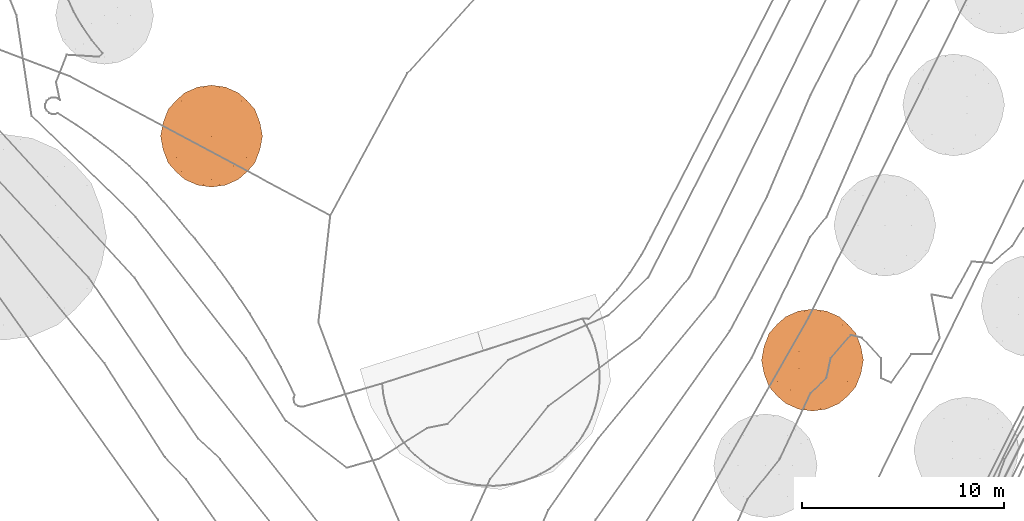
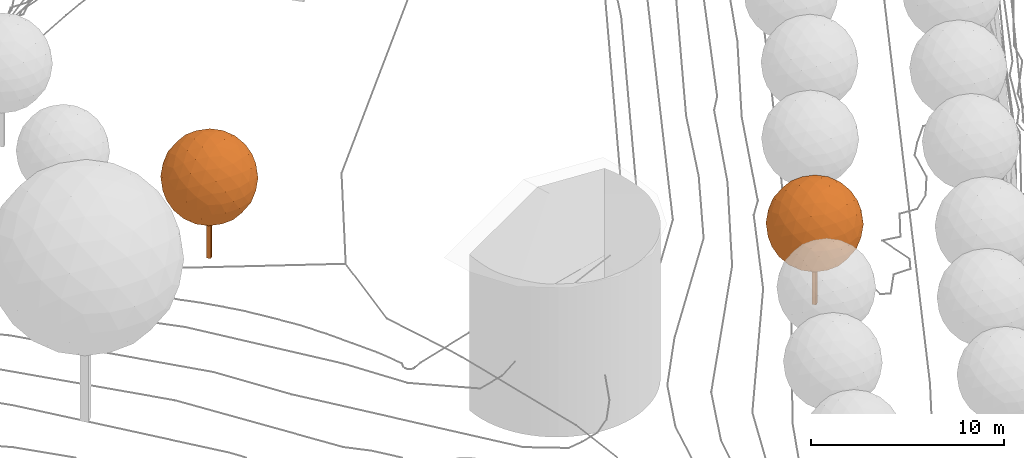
# Not in any storey, part 366 of 494: 2 proxies.
"""IFC2X3 model written with IfcOpenShell, lengths in metres."""

import ifcopenshell
import ifcopenshell.guid

model = None  # the IFC model being written
_history = None  # IfcOwnerHistory: only IFC2X3 demands one
_inside = {}  # id of a spatial element -> (the spatial element, [elements in it])
_under = {}  # id of a project, library or spatial element -> (it, [spatial elements below it])
_declared = {}  # id of a project -> (the project, [libraries it declares])
_typed = {}  # id of a type object -> (the type object, [elements of that type])
_made_of = {}  # id of a material, layer set ... -> (it, [elements and type objects made of it])


def new_model(schema):
    """Start an empty IFC model of exactly this schema.

    Asked for "IFC4X3", IfcOpenShell would pick the latest addendum, in which some entities
    have other attributes; the version numbers below select the first issue.
    IFC2X3 requires an IfcOwnerHistory on every rooted entity: one is made here for all.
    """
    global model, _history
    if schema == "IFC4X3":
        model = ifcopenshell.file(schema_version=(4, 3, 0, 0))
    else:
        model = ifcopenshell.file(schema=schema)
    _inside.clear()
    _under.clear()
    _declared.clear()
    _typed.clear()
    _made_of.clear()
    _history = None
    if model.schema == "IFC2X3":
        org = make("IfcOrganization", Name="unknown")
        user = make(
            "IfcPersonAndOrganization",
            ThePerson=make("IfcPerson", FamilyName="unknown"),
            TheOrganization=org,
        )
        app = make(
            "IfcApplication",
            ApplicationDeveloper=org,
            Version="unknown",
            ApplicationFullName="unknown",
            ApplicationIdentifier="unknown",
        )
        _history = make(
            "IfcOwnerHistory",
            OwningUser=user,
            OwningApplication=app,
            ChangeAction="ADDED",
            CreationDate=0,
        )
    return model


def make(cls, **values):
    """One entity of the class cls with the attributes given. An attribute that is None is left unset."""
    return model.create_entity(
        cls, **{name: value for name, value in values.items() if value is not None}
    )


def rooted(cls, **values):
    """An entity with a GlobalId (a new one), such as an element, a storey or a relation."""
    return make(cls, GlobalId=ifcopenshell.guid.new(), OwnerHistory=_history, **values)


def si_unit(unit_type, name, prefix=None):
    """IfcSIUnit, for example si_unit("LENGTHUNIT", "METRE", prefix="MILLI")."""
    return make("IfcSIUnit", UnitType=unit_type, Prefix=prefix, Name=name)


def assignment(units):
    """IfcUnitAssignment: the units of a project."""
    return None if units is None else make("IfcUnitAssignment", Units=units)


def point(xyz):
    """IfcCartesianPoint."""
    return None if xyz is None else make("IfcCartesianPoint", Coordinates=xyz)


def direction(xyz):
    """IfcDirection."""
    return None if xyz is None else make("IfcDirection", DirectionRatios=xyz)


def frame(location, z_axis=None, x_axis=None):
    """IfcAxis2Placement3D, a coordinate frame: its origin and axes. An axis left out is left unset."""
    return make(
        "IfcAxis2Placement3D",
        Location=point(location),
        Axis=direction(z_axis),
        RefDirection=direction(x_axis),
    )


def origin_with_axes():
    """The frame at (0, 0, 0) with the z axis (0, 0, 1) and the x axis (1, 0, 0) written out."""
    return frame((0.0, 0.0, 0.0), z_axis=(0.0, 0.0, 1.0), x_axis=(1.0, 0.0, 0.0))


def place(relative_to, where):
    """IfcLocalPlacement: puts the frame where relative to a parent placement (None: the world)."""
    return make(
        "IfcLocalPlacement", PlacementRelTo=relative_to, RelativePlacement=where
    )


def context(
    kind, dimensions, precision=None, world=None, true_north=None, identifier=None
):
    """IfcGeometricRepresentationContext, for example the 3D "Model" context."""
    return make(
        "IfcGeometricRepresentationContext",
        ContextIdentifier=identifier,
        ContextType=kind,
        CoordinateSpaceDimension=dimensions,
        Precision=precision,
        WorldCoordinateSystem=world,
        TrueNorth=true_north,
    )


def subcontext(parent, identifier, kind, view, scale=None):
    """IfcGeometricRepresentationSubContext, for example "Body" below "Model"."""
    return make(
        "IfcGeometricRepresentationSubContext",
        ContextIdentifier=identifier,
        ContextType=kind,
        ParentContext=parent,
        TargetScale=scale,
        TargetView=view,
    )


def project(units=None, contexts=None):
    """IfcProject with its units and contexts."""
    return rooted(
        "IfcProject",
        Name="project",
        RepresentationContexts=contexts,
        UnitsInContext=assignment(units),
    )


def faces_of(points, faces, orient=None, outer=None):
    """IfcFace entities. A face is a list of loops; a loop is a list of indices into points, from 0.

    orient and outer hold one flag for each loop. By default every Orientation is true, the
    first loop of a face is its IfcFaceOuterBound and the others are IfcFaceBound.
    """
    made = []
    for i, loops in enumerate(faces):
        bounds = []
        for j, loop in enumerate(loops):
            is_outer = j == 0 if outer is None else outer[i][j]
            bounds.append(
                make(
                    "IfcFaceOuterBound" if is_outer else "IfcFaceBound",
                    Bound=make("IfcPolyLoop", Polygon=[points[k] for k in loop]),
                    Orientation=True if orient is None else orient[i][j],
                )
            )
        made.append(make("IfcFace", Bounds=bounds))
    return made


def faceted_brep(points, faces, orient=None, outer=None, voids=None):
    """IfcFacetedBrep: a solid bounded by flat faces; with voids (closed shells), ...WithVoids."""
    shared = [point(p) for p in points]
    hull = make("IfcClosedShell", CfsFaces=faces_of(shared, faces, orient, outer))
    if voids is None:
        return make("IfcFacetedBrep", Outer=hull)
    return make(
        "IfcFacetedBrepWithVoids",
        Outer=hull,
        Voids=[
            make(cls, CfsFaces=faces_of(shared, fs, o, b)) for cls, fs, o, b in voids
        ],
    )


def shape(context_of_items, identifier, shape_type, items):
    """IfcShapeRepresentation: the items that make up one representation, for example the "Body"."""
    return make(
        "IfcShapeRepresentation",
        ContextOfItems=context_of_items,
        RepresentationIdentifier=identifier,
        RepresentationType=shape_type,
        Items=items,
    )


def made_of(thing, what):
    """Note that an element or type object is made of a material, layer set ...; save() writes the relation."""
    if what is not None:
        _made_of.setdefault(what.id(), (what, []))[1].append(thing)
    return thing


def element(
    cls,
    number,
    at=None,
    inside=None,
    cuts=None,
    type_object=None,
    material=None,
    context=None,
    identifier="Body",
    shape_type=None,
    held_by="IfcProductDefinitionShape",
    body=None,
    shapes=None,
    **own,
):
    """One element of the class cls, such as IfcWall. Its Tag is "e" and its number.

    at: its placement. inside: the storey or other place that contains it. cuts: it is an
    opening in that element (IfcRelVoidsElement). A single representation is given by context,
    identifier, shape_type and body (its items); several are given by shapes. held_by: the class
    of the entity that holds the representations. save() writes the other relations.
    """
    e = rooted(cls, Tag="e%d" % number, ObjectPlacement=at, **own)
    if body is not None:
        shapes = [shape(context, identifier, shape_type, body)]
    if shapes is not None:
        e.Representation = make(held_by, Representations=shapes)
    if inside is not None:
        _inside.setdefault(inside.id(), (inside, []))[1].append(e)
    if cuts is not None:
        rooted(
            "IfcRelVoidsElement", RelatingBuildingElement=cuts, RelatedOpeningElement=e
        )
    if type_object is not None:
        _typed.setdefault(type_object.id(), (type_object, []))[1].append(e)
    return made_of(e, material)


def aggregate(whole, parts):
    """IfcRelAggregates: a whole, such as a stair, and the parts it consists of."""
    return rooted("IfcRelAggregates", RelatingObject=whole, RelatedObjects=parts)


def save(model, path):
    """Write the relations noted so far, then the file.

    IfcRelAggregates (storeys below a building ...), IfcRelContainedInSpatialStructure (elements
    in a storey), IfcRelDefinesByType, IfcRelAssociatesMaterial and IfcRelDeclares: one each for
    every whole, place, type object, material and project.
    """
    for whole, parts in _under.values():
        aggregate(whole, parts)
    for where, things in _inside.values():
        rooted(
            "IfcRelContainedInSpatialStructure",
            RelatedElements=things,
            RelatingStructure=where,
        )
    for kind, things in _typed.values():
        rooted("IfcRelDefinesByType", RelatedObjects=things, RelatingType=kind)
    for what, things in _made_of.values():
        rooted("IfcRelAssociatesMaterial", RelatedObjects=things, RelatingMaterial=what)
    for by, libraries in _declared.values():
        rooted("IfcRelDeclares", RelatingContext=by, RelatedDefinitions=libraries)
    model.write(path)


model = new_model("IFC2X3")

# Units and contexts
model_context = context("Model", 3, precision=1e-05, world=origin_with_axes())
body_context = subcontext(model_context, "Body", "Model", "MODEL_VIEW")
ifc_project = project(units=[si_unit("AREAUNIT", "SQUARE_METRE"), si_unit("LENGTHUNIT", "METRE")], contexts=[model_context])

# Proxies
proxy_1_placement = place(None, frame((243.9797320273, 258.1807352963, 545.6887201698), z_axis=(0.0, 0.0, 1.0), x_axis=(1.0, 0.0, 0.0)))
element("IfcBuildingElementProxy", 1, at=proxy_1_placement, Name="Tree TR1 CD50", ObjectType="NOTDEFINED", context=body_context, shape_type="Brep", body=[
    faceted_brep([(0.0, 0.1608373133, 0.0), (0.1608373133, 0.0, 0.0), (0.0, -0.1608373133, 0.0), (-0.1608373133, 0.0, 0.0), (0.0, -0.1608373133, 5.0528532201), (0.1608373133, 0.0, 5.0528532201), (0.0, 0.1608373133, 5.0528532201), (-0.1608373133, 0.0, 5.0528532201)], [[[0, 1, 2]], [[2, 3, 0]], [[4, 5, 6]], [[6, 7, 4]], [[4, 7, 2]], [[2, 7, 3]], [[7, 6, 3]], [[3, 6, 0]], [[5, 4, 1]], [[1, 4, 2]], [[6, 5, 0]], [[0, 5, 1]]]),
    faceted_brep([(-1.3282210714, 2.1491068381, 5.0528532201), (-1.7527854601, 1.7736688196, 5.4586530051), (-1.0961876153, 2.1794686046, 5.7094510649), (-2.0439220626, 1.263213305, 5.8335619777), (-1.4849963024, 1.7386639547, 6.1274066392), (-0.7807087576, 2.0439220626, 6.3160665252), (-2.1794686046, 0.6565978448, 6.1490408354), (-1.7386639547, 1.074553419, 6.5378495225), (-2.1491068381, 0.0, 6.3810742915), (-1.7736688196, 0.405799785, 6.8056386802), (-1.263213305, 0.7807087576, 7.0967752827), (-1.074553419, 1.4849963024, 6.7915171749), (-0.405799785, 1.7527854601, 6.8265220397), (-0.6565978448, 1.0961876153, 7.2323218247), (0.0, 1.3282210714, 7.2019600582), (-0.6903878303, 2.4302666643, 5.0528532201), (-0.4104428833, 2.4027744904, 5.7169637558), (0.0, 2.5264266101, 5.0528532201), (0.0, 2.1491068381, 6.3810742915), (0.405799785, 1.7527854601, 6.8265220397), (0.7807087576, 2.0439220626, 6.3160665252), (0.4104428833, 2.4027744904, 5.7169637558), (0.6903878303, 2.4302666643, 5.0528532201), (1.0961876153, 2.1794686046, 5.7094510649), (1.3282210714, 2.1491068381, 5.0528532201), (-1.0961876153, 2.1794686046, 4.3962553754), (-0.4104428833, 2.4027744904, 4.3887426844), (-0.7807087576, 2.0439220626, 3.7896399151), (0.4104428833, 2.4027744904, 4.3887426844), (1.0961876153, 2.1794686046, 4.3962553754), (0.7807087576, 2.0439220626, 3.7896399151), (0.0, 2.1491068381, 3.7246321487), (-0.405799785, 1.7527854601, 3.2791844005), (0.405799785, 1.7527854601, 3.2791844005), (0.0, 1.3282210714, 2.903746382), (-1.7527854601, 1.7736688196, 4.6470534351), (-1.4849963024, 1.7386639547, 3.9782998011), (-2.0439220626, 1.263213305, 4.2721444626), (-1.074553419, 1.4849963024, 3.3141892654), (-0.6565978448, 1.0961876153, 2.8733846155), (-1.263213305, 0.7807087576, 3.0089311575), (-1.7386639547, 1.074553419, 3.5678569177), (-2.1794686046, 0.6565978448, 3.9566656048), (-1.7736688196, 0.405799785, 3.3000677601), (-2.1491068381, 0.0, 3.7246321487), (-2.1491068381, 1.3282210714, 5.0528532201), (-2.4027744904, 0.6641105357, 4.6424103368), (-2.4302666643, 0.0, 4.3624653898), (-2.5264266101, 0.0, 5.0528532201), (-2.4027744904, 0.6641105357, 5.4632961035), (-2.4302666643, 0.0, 5.7432410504), (1.7527854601, 1.7736688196, 5.4586530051), (1.4849963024, 1.7386639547, 6.1274066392), (2.0439220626, 1.263213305, 5.8335619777), (1.074553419, 1.4849963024, 6.7915171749), (0.6565978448, 1.0961876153, 7.2323218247), (1.263213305, 0.7807087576, 7.0967752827), (1.7386639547, 1.074553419, 6.5378495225), (2.1794686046, 0.6565978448, 6.1490408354), (1.7736688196, 0.405799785, 6.8056386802), (2.1491068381, 0.0, 6.3810742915), (0.0, 0.6903878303, 7.4831198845), (-0.6641105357, 0.4104428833, 7.4556277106), (0.0, 0.0, 7.5792798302), (-1.3282210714, 0.0, 7.2019600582), (-1.7736688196, -0.405799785, 6.8056386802), (-1.263213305, -0.7807087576, 7.0967752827), (-0.6641105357, -0.4104428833, 7.4556277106), (0.0, -0.6903878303, 7.4831198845), (-0.6565978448, -1.0961876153, 7.2323218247), (0.0, -1.3282210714, 7.2019600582), (-2.1794686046, -0.6565978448, 6.1490408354), (-2.4027744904, -0.6641105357, 5.4632961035), (-2.0439220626, -1.263213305, 5.8335619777), (-2.4027744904, -0.6641105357, 4.6424103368), (-2.1794686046, -0.6565978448, 3.9566656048), (-2.0439220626, -1.263213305, 4.2721444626), (-2.1491068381, -1.3282210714, 5.0528532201), (-1.7527854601, -1.7736688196, 5.4586530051), (-1.7527854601, -1.7736688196, 4.6470534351), (-1.3282210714, -2.1491068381, 5.0528532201), (-1.7736688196, -0.405799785, 3.3000677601), (-1.3282210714, 0.0, 2.903746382), (-1.263213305, -0.7807087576, 3.0089311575), (-0.6641105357, 0.4104428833, 2.6500787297), (0.0, 0.6903878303, 2.6225865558), (0.0, 0.0, 2.5264266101), (-0.6641105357, -0.4104428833, 2.6500787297), (-0.6565978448, -1.0961876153, 2.8733846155), (0.0, -0.6903878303, 2.6225865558), (0.0, -1.3282210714, 2.903746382), (0.6565978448, 1.0961876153, 2.8733846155), (1.074553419, 1.4849963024, 3.3141892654), (1.263213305, 0.7807087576, 3.0089311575), (1.4849963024, 1.7386639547, 3.9782998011), (1.7527854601, 1.7736688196, 4.6470534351), (2.0439220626, 1.263213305, 4.2721444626), (1.7386639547, 1.074553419, 3.5678569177), (1.7736688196, 0.405799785, 3.3000677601), (2.1794686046, 0.6565978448, 3.9566656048), (2.1491068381, 0.0, 3.7246321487), (1.3282210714, -2.1491068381, 5.0528532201), (1.7527854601, -1.7736688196, 5.4586530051), (1.0961876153, -2.1794686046, 5.7094510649), (2.0439220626, -1.263213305, 5.8335619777), (1.4849963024, -1.7386639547, 6.1274066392), (0.7807087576, -2.0439220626, 6.3160665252), (2.1794686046, -0.6565978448, 6.1490408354), (1.7386639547, -1.074553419, 6.5378495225), (1.7736688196, -0.405799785, 6.8056386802), (1.263213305, -0.7807087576, 7.0967752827), (1.074553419, -1.4849963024, 6.7915171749), (0.405799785, -1.7527854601, 6.8265220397), (0.6565978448, -1.0961876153, 7.2323218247), (0.6903878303, -2.4302666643, 5.0528532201), (0.4104428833, -2.4027744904, 5.7169637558), (0.0, -2.5264266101, 5.0528532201), (0.0, -2.1491068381, 6.3810742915), (-0.405799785, -1.7527854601, 6.8265220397), (-0.7807087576, -2.0439220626, 6.3160665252), (-0.4104428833, -2.4027744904, 5.7169637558), (-0.6903878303, -2.4302666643, 5.0528532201), (-1.0961876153, -2.1794686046, 5.7094510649), (1.0961876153, -2.1794686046, 4.3962553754), (0.4104428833, -2.4027744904, 4.3887426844), (0.7807087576, -2.0439220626, 3.7896399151), (-0.4104428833, -2.4027744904, 4.3887426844), (-1.0961876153, -2.1794686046, 4.3962553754), (-0.7807087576, -2.0439220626, 3.7896399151), (0.0, -2.1491068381, 3.7246321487), (0.405799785, -1.7527854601, 3.2791844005), (-0.405799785, -1.7527854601, 3.2791844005), (1.7527854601, -1.7736688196, 4.6470534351), (1.4849963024, -1.7386639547, 3.9782998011), (2.0439220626, -1.263213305, 4.2721444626), (1.074553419, -1.4849963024, 3.3141892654), (0.6565978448, -1.0961876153, 2.8733846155), (1.263213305, -0.7807087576, 3.0089311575), (1.7386639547, -1.074553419, 3.5678569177), (2.1794686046, -0.6565978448, 3.9566656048), (1.7736688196, -0.405799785, 3.3000677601), (2.1491068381, -1.3282210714, 5.0528532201), (2.4027744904, -0.6641105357, 4.6424103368), (2.4302666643, 0.0, 4.3624653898), (2.5264266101, 0.0, 5.0528532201), (2.4027744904, -0.6641105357, 5.4632961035), (2.4302666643, 0.0, 5.7432410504), (0.6641105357, -0.4104428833, 7.4556277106), (1.3282210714, 0.0, 7.2019600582), (0.6641105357, 0.4104428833, 7.4556277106), (-1.4849963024, -1.7386639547, 6.1274066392), (-1.074553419, -1.4849963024, 6.7915171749), (-1.7386639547, -1.074553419, 6.5378495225), (-1.074553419, -1.4849963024, 3.3141892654), (-1.4849963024, -1.7386639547, 3.9782998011), (-1.7386639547, -1.074553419, 3.5678569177), (1.3282210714, 0.0, 2.903746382), (0.6641105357, -0.4104428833, 2.6500787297), (0.6641105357, 0.4104428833, 2.6500787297), (2.4027744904, 0.6641105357, 5.4632961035), (2.4027744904, 0.6641105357, 4.6424103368), (2.1491068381, 1.3282210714, 5.0528532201)], [[[0, 1, 2]], [[1, 3, 4]], [[2, 4, 5]], [[1, 4, 2]], [[3, 6, 7]], [[6, 8, 9]], [[7, 9, 10]], [[6, 9, 7]], [[5, 11, 12]], [[11, 10, 13]], [[12, 13, 14]], [[11, 13, 12]], [[3, 7, 4]], [[7, 10, 11]], [[4, 11, 5]], [[7, 11, 4]], [[0, 2, 15]], [[2, 5, 16]], [[15, 16, 17]], [[2, 16, 15]], [[5, 12, 18]], [[12, 14, 19]], [[18, 19, 20]], [[12, 19, 18]], [[17, 21, 22]], [[21, 20, 23]], [[22, 23, 24]], [[21, 23, 22]], [[5, 18, 16]], [[18, 20, 21]], [[16, 21, 17]], [[18, 21, 16]], [[0, 15, 25]], [[15, 17, 26]], [[25, 26, 27]], [[15, 26, 25]], [[17, 22, 28]], [[22, 24, 29]], [[28, 29, 30]], [[22, 29, 28]], [[27, 31, 32]], [[31, 30, 33]], [[32, 33, 34]], [[31, 33, 32]], [[17, 28, 26]], [[28, 30, 31]], [[26, 31, 27]], [[28, 31, 26]], [[0, 25, 35]], [[25, 27, 36]], [[35, 36, 37]], [[25, 36, 35]], [[27, 32, 38]], [[32, 34, 39]], [[38, 39, 40]], [[32, 39, 38]], [[37, 41, 42]], [[41, 40, 43]], [[42, 43, 44]], [[41, 43, 42]], [[27, 38, 36]], [[38, 40, 41]], [[36, 41, 37]], [[38, 41, 36]], [[0, 35, 1]], [[35, 37, 45]], [[1, 45, 3]], [[35, 45, 1]], [[37, 42, 46]], [[42, 44, 47]], [[46, 47, 48]], [[42, 47, 46]], [[3, 49, 6]], [[49, 48, 50]], [[6, 50, 8]], [[49, 50, 6]], [[37, 46, 45]], [[46, 48, 49]], [[45, 49, 3]], [[46, 49, 45]], [[24, 23, 51]], [[23, 20, 52]], [[51, 52, 53]], [[23, 52, 51]], [[20, 19, 54]], [[19, 14, 55]], [[54, 55, 56]], [[19, 55, 54]], [[53, 57, 58]], [[57, 56, 59]], [[58, 59, 60]], [[57, 59, 58]], [[20, 54, 52]], [[54, 56, 57]], [[52, 57, 53]], [[54, 57, 52]], [[14, 13, 61]], [[13, 10, 62]], [[61, 62, 63]], [[13, 62, 61]], [[10, 9, 64]], [[9, 8, 65]], [[64, 65, 66]], [[9, 65, 64]], [[63, 67, 68]], [[67, 66, 69]], [[68, 69, 70]], [[67, 69, 68]], [[10, 64, 62]], [[64, 66, 67]], [[62, 67, 63]], [[64, 67, 62]], [[8, 50, 71]], [[50, 48, 72]], [[71, 72, 73]], [[50, 72, 71]], [[48, 47, 74]], [[47, 44, 75]], [[74, 75, 76]], [[47, 75, 74]], [[73, 77, 78]], [[77, 76, 79]], [[78, 79, 80]], [[77, 79, 78]], [[48, 74, 72]], [[74, 76, 77]], [[72, 77, 73]], [[74, 77, 72]], [[44, 43, 81]], [[43, 40, 82]], [[81, 82, 83]], [[43, 82, 81]], [[40, 39, 84]], [[39, 34, 85]], [[84, 85, 86]], [[39, 85, 84]], [[83, 87, 88]], [[87, 86, 89]], [[88, 89, 90]], [[87, 89, 88]], [[40, 84, 82]], [[84, 86, 87]], [[82, 87, 83]], [[84, 87, 82]], [[34, 33, 91]], [[33, 30, 92]], [[91, 92, 93]], [[33, 92, 91]], [[30, 29, 94]], [[29, 24, 95]], [[94, 95, 96]], [[29, 95, 94]], [[93, 97, 98]], [[97, 96, 99]], [[98, 99, 100]], [[97, 99, 98]], [[30, 94, 92]], [[94, 96, 97]], [[92, 97, 93]], [[94, 97, 92]], [[101, 102, 103]], [[102, 104, 105]], [[103, 105, 106]], [[102, 105, 103]], [[104, 107, 108]], [[107, 60, 109]], [[108, 109, 110]], [[107, 109, 108]], [[106, 111, 112]], [[111, 110, 113]], [[112, 113, 70]], [[111, 113, 112]], [[104, 108, 105]], [[108, 110, 111]], [[105, 111, 106]], [[108, 111, 105]], [[101, 103, 114]], [[103, 106, 115]], [[114, 115, 116]], [[103, 115, 114]], [[106, 112, 117]], [[112, 70, 118]], [[117, 118, 119]], [[112, 118, 117]], [[116, 120, 121]], [[120, 119, 122]], [[121, 122, 80]], [[120, 122, 121]], [[106, 117, 115]], [[117, 119, 120]], [[115, 120, 116]], [[117, 120, 115]], [[101, 114, 123]], [[114, 116, 124]], [[123, 124, 125]], [[114, 124, 123]], [[116, 121, 126]], [[121, 80, 127]], [[126, 127, 128]], [[121, 127, 126]], [[125, 129, 130]], [[129, 128, 131]], [[130, 131, 90]], [[129, 131, 130]], [[116, 126, 124]], [[126, 128, 129]], [[124, 129, 125]], [[126, 129, 124]], [[101, 123, 132]], [[123, 125, 133]], [[132, 133, 134]], [[123, 133, 132]], [[125, 130, 135]], [[130, 90, 136]], [[135, 136, 137]], [[130, 136, 135]], [[134, 138, 139]], [[138, 137, 140]], [[139, 140, 100]], [[138, 140, 139]], [[125, 135, 133]], [[135, 137, 138]], [[133, 138, 134]], [[135, 138, 133]], [[101, 132, 102]], [[132, 134, 141]], [[102, 141, 104]], [[132, 141, 102]], [[134, 139, 142]], [[139, 100, 143]], [[142, 143, 144]], [[139, 143, 142]], [[104, 145, 107]], [[145, 144, 146]], [[107, 146, 60]], [[145, 146, 107]], [[134, 142, 141]], [[142, 144, 145]], [[141, 145, 104]], [[142, 145, 141]], [[70, 113, 68]], [[113, 110, 147]], [[68, 147, 63]], [[113, 147, 68]], [[110, 109, 148]], [[109, 60, 59]], [[148, 59, 56]], [[109, 59, 148]], [[63, 149, 61]], [[149, 56, 55]], [[61, 55, 14]], [[149, 55, 61]], [[110, 148, 147]], [[148, 56, 149]], [[147, 149, 63]], [[148, 149, 147]], [[80, 122, 78]], [[122, 119, 150]], [[78, 150, 73]], [[122, 150, 78]], [[119, 118, 151]], [[118, 70, 69]], [[151, 69, 66]], [[118, 69, 151]], [[73, 152, 71]], [[152, 66, 65]], [[71, 65, 8]], [[152, 65, 71]], [[119, 151, 150]], [[151, 66, 152]], [[150, 152, 73]], [[151, 152, 150]], [[90, 131, 88]], [[131, 128, 153]], [[88, 153, 83]], [[131, 153, 88]], [[128, 127, 154]], [[127, 80, 79]], [[154, 79, 76]], [[127, 79, 154]], [[83, 155, 81]], [[155, 76, 75]], [[81, 75, 44]], [[155, 75, 81]], [[128, 154, 153]], [[154, 76, 155]], [[153, 155, 83]], [[154, 155, 153]], [[100, 140, 98]], [[140, 137, 156]], [[98, 156, 93]], [[140, 156, 98]], [[137, 136, 157]], [[136, 90, 89]], [[157, 89, 86]], [[136, 89, 157]], [[93, 158, 91]], [[158, 86, 85]], [[91, 85, 34]], [[158, 85, 91]], [[137, 157, 156]], [[157, 86, 158]], [[156, 158, 93]], [[157, 158, 156]], [[60, 146, 58]], [[146, 144, 159]], [[58, 159, 53]], [[146, 159, 58]], [[144, 143, 160]], [[143, 100, 99]], [[160, 99, 96]], [[143, 99, 160]], [[53, 161, 51]], [[161, 96, 95]], [[51, 95, 24]], [[161, 95, 51]], [[144, 160, 159]], [[160, 96, 161]], [[159, 161, 53]], [[160, 161, 159]]]),
])
proxy_2_placement = place(None, frame((273.7707320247, 247.0787356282, 539.0652425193), z_axis=(0.0, 0.0, 1.0), x_axis=(1.0, 0.0, 0.0)))
element("IfcBuildingElementProxy", 2, at=proxy_2_placement, Name="Tree TR1 CD50", ObjectType="NOTDEFINED", context=body_context, shape_type="Brep", body=[
    faceted_brep([(0.0, 0.1608373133, 0.0), (0.1608373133, 0.0, 0.0), (0.0, -0.1608373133, 0.0), (-0.1608373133, 0.0, 0.0), (0.0, -0.1608373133, 5.0528532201), (0.1608373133, 0.0, 5.0528532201), (0.0, 0.1608373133, 5.0528532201), (-0.1608373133, 0.0, 5.0528532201)], [[[0, 1, 2]], [[2, 3, 0]], [[4, 5, 6]], [[6, 7, 4]], [[4, 7, 2]], [[2, 7, 3]], [[7, 6, 3]], [[3, 6, 0]], [[5, 4, 1]], [[1, 4, 2]], [[6, 5, 0]], [[0, 5, 1]]]),
    faceted_brep([(-1.3282210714, 2.1491068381, 5.0528532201), (-1.7527854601, 1.7736688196, 5.4586530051), (-1.0961876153, 2.1794686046, 5.7094510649), (-2.0439220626, 1.263213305, 5.8335619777), (-1.4849963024, 1.7386639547, 6.1274066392), (-0.7807087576, 2.0439220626, 6.3160665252), (-2.1794686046, 0.6565978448, 6.1490408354), (-1.7386639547, 1.074553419, 6.5378495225), (-2.1491068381, 0.0, 6.3810742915), (-1.7736688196, 0.405799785, 6.8056386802), (-1.263213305, 0.7807087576, 7.0967752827), (-1.074553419, 1.4849963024, 6.7915171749), (-0.405799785, 1.7527854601, 6.8265220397), (-0.6565978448, 1.0961876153, 7.2323218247), (0.0, 1.3282210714, 7.2019600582), (-0.6903878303, 2.4302666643, 5.0528532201), (-0.4104428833, 2.4027744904, 5.7169637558), (0.0, 2.5264266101, 5.0528532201), (0.0, 2.1491068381, 6.3810742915), (0.405799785, 1.7527854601, 6.8265220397), (0.7807087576, 2.0439220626, 6.3160665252), (0.4104428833, 2.4027744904, 5.7169637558), (0.6903878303, 2.4302666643, 5.0528532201), (1.0961876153, 2.1794686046, 5.7094510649), (1.3282210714, 2.1491068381, 5.0528532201), (-1.0961876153, 2.1794686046, 4.3962553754), (-0.4104428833, 2.4027744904, 4.3887426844), (-0.7807087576, 2.0439220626, 3.7896399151), (0.4104428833, 2.4027744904, 4.3887426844), (1.0961876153, 2.1794686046, 4.3962553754), (0.7807087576, 2.0439220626, 3.7896399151), (0.0, 2.1491068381, 3.7246321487), (-0.405799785, 1.7527854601, 3.2791844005), (0.405799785, 1.7527854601, 3.2791844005), (0.0, 1.3282210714, 2.903746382), (-1.7527854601, 1.7736688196, 4.6470534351), (-1.4849963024, 1.7386639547, 3.9782998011), (-2.0439220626, 1.263213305, 4.2721444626), (-1.074553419, 1.4849963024, 3.3141892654), (-0.6565978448, 1.0961876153, 2.8733846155), (-1.263213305, 0.7807087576, 3.0089311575), (-1.7386639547, 1.074553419, 3.5678569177), (-2.1794686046, 0.6565978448, 3.9566656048), (-1.7736688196, 0.405799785, 3.3000677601), (-2.1491068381, 0.0, 3.7246321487), (-2.1491068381, 1.3282210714, 5.0528532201), (-2.4027744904, 0.6641105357, 4.6424103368), (-2.4302666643, 0.0, 4.3624653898), (-2.5264266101, 0.0, 5.0528532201), (-2.4027744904, 0.6641105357, 5.4632961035), (-2.4302666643, 0.0, 5.7432410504), (1.7527854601, 1.7736688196, 5.4586530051), (1.4849963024, 1.7386639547, 6.1274066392), (2.0439220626, 1.263213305, 5.8335619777), (1.074553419, 1.4849963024, 6.7915171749), (0.6565978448, 1.0961876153, 7.2323218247), (1.263213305, 0.7807087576, 7.0967752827), (1.7386639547, 1.074553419, 6.5378495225), (2.1794686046, 0.6565978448, 6.1490408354), (1.7736688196, 0.405799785, 6.8056386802), (2.1491068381, 0.0, 6.3810742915), (0.0, 0.6903878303, 7.4831198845), (-0.6641105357, 0.4104428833, 7.4556277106), (0.0, 0.0, 7.5792798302), (-1.3282210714, 0.0, 7.2019600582), (-1.7736688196, -0.405799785, 6.8056386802), (-1.263213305, -0.7807087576, 7.0967752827), (-0.6641105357, -0.4104428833, 7.4556277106), (0.0, -0.6903878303, 7.4831198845), (-0.6565978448, -1.0961876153, 7.2323218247), (0.0, -1.3282210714, 7.2019600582), (-2.1794686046, -0.6565978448, 6.1490408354), (-2.4027744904, -0.6641105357, 5.4632961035), (-2.0439220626, -1.263213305, 5.8335619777), (-2.4027744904, -0.6641105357, 4.6424103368), (-2.1794686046, -0.6565978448, 3.9566656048), (-2.0439220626, -1.263213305, 4.2721444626), (-2.1491068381, -1.3282210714, 5.0528532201), (-1.7527854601, -1.7736688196, 5.4586530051), (-1.7527854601, -1.7736688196, 4.6470534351), (-1.3282210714, -2.1491068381, 5.0528532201), (-1.7736688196, -0.405799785, 3.3000677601), (-1.3282210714, 0.0, 2.903746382), (-1.263213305, -0.7807087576, 3.0089311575), (-0.6641105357, 0.4104428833, 2.6500787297), (0.0, 0.6903878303, 2.6225865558), (0.0, 0.0, 2.5264266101), (-0.6641105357, -0.4104428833, 2.6500787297), (-0.6565978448, -1.0961876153, 2.8733846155), (0.0, -0.6903878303, 2.6225865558), (0.0, -1.3282210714, 2.903746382), (0.6565978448, 1.0961876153, 2.8733846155), (1.074553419, 1.4849963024, 3.3141892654), (1.263213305, 0.7807087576, 3.0089311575), (1.4849963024, 1.7386639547, 3.9782998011), (1.7527854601, 1.7736688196, 4.6470534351), (2.0439220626, 1.263213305, 4.2721444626), (1.7386639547, 1.074553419, 3.5678569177), (1.7736688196, 0.405799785, 3.3000677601), (2.1794686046, 0.6565978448, 3.9566656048), (2.1491068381, 0.0, 3.7246321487), (1.3282210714, -2.1491068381, 5.0528532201), (1.7527854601, -1.7736688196, 5.4586530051), (1.0961876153, -2.1794686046, 5.7094510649), (2.0439220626, -1.263213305, 5.8335619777), (1.4849963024, -1.7386639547, 6.1274066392), (0.7807087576, -2.0439220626, 6.3160665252), (2.1794686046, -0.6565978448, 6.1490408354), (1.7386639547, -1.074553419, 6.5378495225), (1.7736688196, -0.405799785, 6.8056386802), (1.263213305, -0.7807087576, 7.0967752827), (1.074553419, -1.4849963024, 6.7915171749), (0.405799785, -1.7527854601, 6.8265220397), (0.6565978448, -1.0961876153, 7.2323218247), (0.6903878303, -2.4302666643, 5.0528532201), (0.4104428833, -2.4027744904, 5.7169637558), (0.0, -2.5264266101, 5.0528532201), (0.0, -2.1491068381, 6.3810742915), (-0.405799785, -1.7527854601, 6.8265220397), (-0.7807087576, -2.0439220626, 6.3160665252), (-0.4104428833, -2.4027744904, 5.7169637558), (-0.6903878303, -2.4302666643, 5.0528532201), (-1.0961876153, -2.1794686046, 5.7094510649), (1.0961876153, -2.1794686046, 4.3962553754), (0.4104428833, -2.4027744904, 4.3887426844), (0.7807087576, -2.0439220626, 3.7896399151), (-0.4104428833, -2.4027744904, 4.3887426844), (-1.0961876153, -2.1794686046, 4.3962553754), (-0.7807087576, -2.0439220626, 3.7896399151), (0.0, -2.1491068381, 3.7246321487), (0.405799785, -1.7527854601, 3.2791844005), (-0.405799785, -1.7527854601, 3.2791844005), (1.7527854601, -1.7736688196, 4.6470534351), (1.4849963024, -1.7386639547, 3.9782998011), (2.0439220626, -1.263213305, 4.2721444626), (1.074553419, -1.4849963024, 3.3141892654), (0.6565978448, -1.0961876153, 2.8733846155), (1.263213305, -0.7807087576, 3.0089311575), (1.7386639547, -1.074553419, 3.5678569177), (2.1794686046, -0.6565978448, 3.9566656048), (1.7736688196, -0.405799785, 3.3000677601), (2.1491068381, -1.3282210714, 5.0528532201), (2.4027744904, -0.6641105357, 4.6424103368), (2.4302666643, 0.0, 4.3624653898), (2.5264266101, 0.0, 5.0528532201), (2.4027744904, -0.6641105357, 5.4632961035), (2.4302666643, 0.0, 5.7432410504), (0.6641105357, -0.4104428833, 7.4556277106), (1.3282210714, 0.0, 7.2019600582), (0.6641105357, 0.4104428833, 7.4556277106), (-1.4849963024, -1.7386639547, 6.1274066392), (-1.074553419, -1.4849963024, 6.7915171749), (-1.7386639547, -1.074553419, 6.5378495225), (-1.074553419, -1.4849963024, 3.3141892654), (-1.4849963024, -1.7386639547, 3.9782998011), (-1.7386639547, -1.074553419, 3.5678569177), (1.3282210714, 0.0, 2.903746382), (0.6641105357, -0.4104428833, 2.6500787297), (0.6641105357, 0.4104428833, 2.6500787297), (2.4027744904, 0.6641105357, 5.4632961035), (2.4027744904, 0.6641105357, 4.6424103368), (2.1491068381, 1.3282210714, 5.0528532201)], [[[0, 1, 2]], [[1, 3, 4]], [[2, 4, 5]], [[1, 4, 2]], [[3, 6, 7]], [[6, 8, 9]], [[7, 9, 10]], [[6, 9, 7]], [[5, 11, 12]], [[11, 10, 13]], [[12, 13, 14]], [[11, 13, 12]], [[3, 7, 4]], [[7, 10, 11]], [[4, 11, 5]], [[7, 11, 4]], [[0, 2, 15]], [[2, 5, 16]], [[15, 16, 17]], [[2, 16, 15]], [[5, 12, 18]], [[12, 14, 19]], [[18, 19, 20]], [[12, 19, 18]], [[17, 21, 22]], [[21, 20, 23]], [[22, 23, 24]], [[21, 23, 22]], [[5, 18, 16]], [[18, 20, 21]], [[16, 21, 17]], [[18, 21, 16]], [[0, 15, 25]], [[15, 17, 26]], [[25, 26, 27]], [[15, 26, 25]], [[17, 22, 28]], [[22, 24, 29]], [[28, 29, 30]], [[22, 29, 28]], [[27, 31, 32]], [[31, 30, 33]], [[32, 33, 34]], [[31, 33, 32]], [[17, 28, 26]], [[28, 30, 31]], [[26, 31, 27]], [[28, 31, 26]], [[0, 25, 35]], [[25, 27, 36]], [[35, 36, 37]], [[25, 36, 35]], [[27, 32, 38]], [[32, 34, 39]], [[38, 39, 40]], [[32, 39, 38]], [[37, 41, 42]], [[41, 40, 43]], [[42, 43, 44]], [[41, 43, 42]], [[27, 38, 36]], [[38, 40, 41]], [[36, 41, 37]], [[38, 41, 36]], [[0, 35, 1]], [[35, 37, 45]], [[1, 45, 3]], [[35, 45, 1]], [[37, 42, 46]], [[42, 44, 47]], [[46, 47, 48]], [[42, 47, 46]], [[3, 49, 6]], [[49, 48, 50]], [[6, 50, 8]], [[49, 50, 6]], [[37, 46, 45]], [[46, 48, 49]], [[45, 49, 3]], [[46, 49, 45]], [[24, 23, 51]], [[23, 20, 52]], [[51, 52, 53]], [[23, 52, 51]], [[20, 19, 54]], [[19, 14, 55]], [[54, 55, 56]], [[19, 55, 54]], [[53, 57, 58]], [[57, 56, 59]], [[58, 59, 60]], [[57, 59, 58]], [[20, 54, 52]], [[54, 56, 57]], [[52, 57, 53]], [[54, 57, 52]], [[14, 13, 61]], [[13, 10, 62]], [[61, 62, 63]], [[13, 62, 61]], [[10, 9, 64]], [[9, 8, 65]], [[64, 65, 66]], [[9, 65, 64]], [[63, 67, 68]], [[67, 66, 69]], [[68, 69, 70]], [[67, 69, 68]], [[10, 64, 62]], [[64, 66, 67]], [[62, 67, 63]], [[64, 67, 62]], [[8, 50, 71]], [[50, 48, 72]], [[71, 72, 73]], [[50, 72, 71]], [[48, 47, 74]], [[47, 44, 75]], [[74, 75, 76]], [[47, 75, 74]], [[73, 77, 78]], [[77, 76, 79]], [[78, 79, 80]], [[77, 79, 78]], [[48, 74, 72]], [[74, 76, 77]], [[72, 77, 73]], [[74, 77, 72]], [[44, 43, 81]], [[43, 40, 82]], [[81, 82, 83]], [[43, 82, 81]], [[40, 39, 84]], [[39, 34, 85]], [[84, 85, 86]], [[39, 85, 84]], [[83, 87, 88]], [[87, 86, 89]], [[88, 89, 90]], [[87, 89, 88]], [[40, 84, 82]], [[84, 86, 87]], [[82, 87, 83]], [[84, 87, 82]], [[34, 33, 91]], [[33, 30, 92]], [[91, 92, 93]], [[33, 92, 91]], [[30, 29, 94]], [[29, 24, 95]], [[94, 95, 96]], [[29, 95, 94]], [[93, 97, 98]], [[97, 96, 99]], [[98, 99, 100]], [[97, 99, 98]], [[30, 94, 92]], [[94, 96, 97]], [[92, 97, 93]], [[94, 97, 92]], [[101, 102, 103]], [[102, 104, 105]], [[103, 105, 106]], [[102, 105, 103]], [[104, 107, 108]], [[107, 60, 109]], [[108, 109, 110]], [[107, 109, 108]], [[106, 111, 112]], [[111, 110, 113]], [[112, 113, 70]], [[111, 113, 112]], [[104, 108, 105]], [[108, 110, 111]], [[105, 111, 106]], [[108, 111, 105]], [[101, 103, 114]], [[103, 106, 115]], [[114, 115, 116]], [[103, 115, 114]], [[106, 112, 117]], [[112, 70, 118]], [[117, 118, 119]], [[112, 118, 117]], [[116, 120, 121]], [[120, 119, 122]], [[121, 122, 80]], [[120, 122, 121]], [[106, 117, 115]], [[117, 119, 120]], [[115, 120, 116]], [[117, 120, 115]], [[101, 114, 123]], [[114, 116, 124]], [[123, 124, 125]], [[114, 124, 123]], [[116, 121, 126]], [[121, 80, 127]], [[126, 127, 128]], [[121, 127, 126]], [[125, 129, 130]], [[129, 128, 131]], [[130, 131, 90]], [[129, 131, 130]], [[116, 126, 124]], [[126, 128, 129]], [[124, 129, 125]], [[126, 129, 124]], [[101, 123, 132]], [[123, 125, 133]], [[132, 133, 134]], [[123, 133, 132]], [[125, 130, 135]], [[130, 90, 136]], [[135, 136, 137]], [[130, 136, 135]], [[134, 138, 139]], [[138, 137, 140]], [[139, 140, 100]], [[138, 140, 139]], [[125, 135, 133]], [[135, 137, 138]], [[133, 138, 134]], [[135, 138, 133]], [[101, 132, 102]], [[132, 134, 141]], [[102, 141, 104]], [[132, 141, 102]], [[134, 139, 142]], [[139, 100, 143]], [[142, 143, 144]], [[139, 143, 142]], [[104, 145, 107]], [[145, 144, 146]], [[107, 146, 60]], [[145, 146, 107]], [[134, 142, 141]], [[142, 144, 145]], [[141, 145, 104]], [[142, 145, 141]], [[70, 113, 68]], [[113, 110, 147]], [[68, 147, 63]], [[113, 147, 68]], [[110, 109, 148]], [[109, 60, 59]], [[148, 59, 56]], [[109, 59, 148]], [[63, 149, 61]], [[149, 56, 55]], [[61, 55, 14]], [[149, 55, 61]], [[110, 148, 147]], [[148, 56, 149]], [[147, 149, 63]], [[148, 149, 147]], [[80, 122, 78]], [[122, 119, 150]], [[78, 150, 73]], [[122, 150, 78]], [[119, 118, 151]], [[118, 70, 69]], [[151, 69, 66]], [[118, 69, 151]], [[73, 152, 71]], [[152, 66, 65]], [[71, 65, 8]], [[152, 65, 71]], [[119, 151, 150]], [[151, 66, 152]], [[150, 152, 73]], [[151, 152, 150]], [[90, 131, 88]], [[131, 128, 153]], [[88, 153, 83]], [[131, 153, 88]], [[128, 127, 154]], [[127, 80, 79]], [[154, 79, 76]], [[127, 79, 154]], [[83, 155, 81]], [[155, 76, 75]], [[81, 75, 44]], [[155, 75, 81]], [[128, 154, 153]], [[154, 76, 155]], [[153, 155, 83]], [[154, 155, 153]], [[100, 140, 98]], [[140, 137, 156]], [[98, 156, 93]], [[140, 156, 98]], [[137, 136, 157]], [[136, 90, 89]], [[157, 89, 86]], [[136, 89, 157]], [[93, 158, 91]], [[158, 86, 85]], [[91, 85, 34]], [[158, 85, 91]], [[137, 157, 156]], [[157, 86, 158]], [[156, 158, 93]], [[157, 158, 156]], [[60, 146, 58]], [[146, 144, 159]], [[58, 159, 53]], [[146, 159, 58]], [[144, 143, 160]], [[143, 100, 99]], [[160, 99, 96]], [[143, 99, 160]], [[53, 161, 51]], [[161, 96, 95]], [[51, 95, 24]], [[161, 95, 51]], [[144, 160, 159]], [[160, 96, 161]], [[159, 161, 53]], [[160, 161, 159]]]),
])

save(model, "model.ifc")
